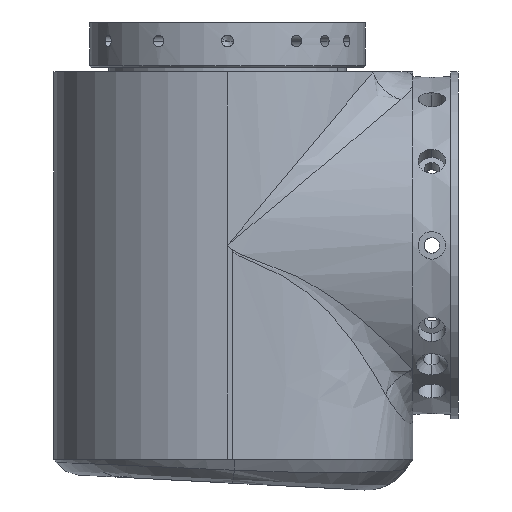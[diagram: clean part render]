
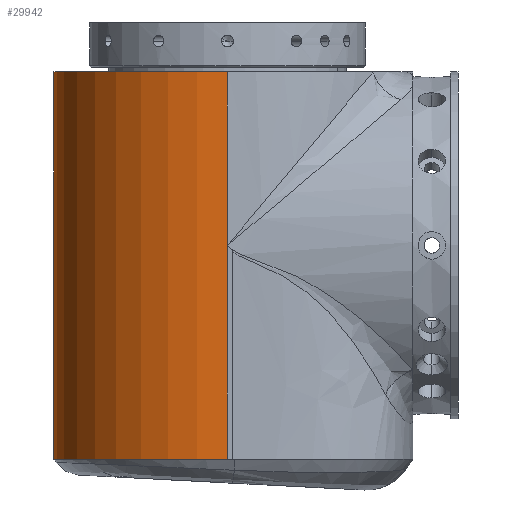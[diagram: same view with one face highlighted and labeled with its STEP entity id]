
A CAD part, left-side view. The second image highlights one B-rep face of the part: STEP entity #29942.
In plain terms, the highlighted cylindrical face has radius 36.5 mm (diameter 73 mm), a partial arc.
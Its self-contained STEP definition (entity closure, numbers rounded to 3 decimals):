
#1960 = EDGE_CURVE ( 'NONE', #57865, #7511, #49894, .T. ) ;
#5952 = ORIENTED_EDGE ( 'NONE', *, *, #140379, .F. ) ;
#7511 = VERTEX_POINT ( 'NONE', #58670 ) ;
#9409 = DIRECTION ( 'NONE',  ( 0., 0., 1. ) ) ;
#10761 = VERTEX_POINT ( 'NONE', #25517 ) ;
#14014 = VECTOR ( 'NONE', #23812, 1000. ) ;
#14905 = LINE ( 'NONE', #53193, #151032 ) ;
#18768 = CARTESIAN_POINT ( 'NONE',  ( 0., 0., 36.5 ) ) ;
#22443 = ORIENTED_EDGE ( 'NONE', *, *, #1960, .F. ) ;
#23812 = DIRECTION ( 'NONE',  ( 0., 0., 1. ) ) ;
#24979 = LINE ( 'NONE', #77935, #116630 ) ;
#25517 = CARTESIAN_POINT ( 'NONE',  ( -36.5, 0., 36.5 ) ) ;
#27458 = AXIS2_PLACEMENT_3D ( 'NONE', #41197, #146931, #154570 ) ;
#29033 = DIRECTION ( 'NONE',  ( 0., 0., 1. ) ) ;
#29942 = ADVANCED_FACE ( 'NONE', ( #68997 ), #31549, .T. ) ;
#31549 = CYLINDRICAL_SURFACE ( 'NONE', #27458, 36.5 ) ;
#31760 = DIRECTION ( 'NONE',  ( 1., 0., 0. ) ) ;
#33121 = EDGE_CURVE ( 'NONE', #120202, #51275, #50667, .T. ) ;
#41197 = CARTESIAN_POINT ( 'NONE',  ( 0., 0., -45. ) ) ;
#43366 = EDGE_CURVE ( 'NONE', #80857, #10761, #24979, .T. ) ;
#46968 = CARTESIAN_POINT ( 'NONE',  ( -36.5, 0., -45. ) ) ;
#49894 = LINE ( 'NONE', #127033, #14014 ) ;
#50667 = CIRCLE ( 'NONE', #155753, 36.5 ) ;
#51275 = VERTEX_POINT ( 'NONE', #128769 ) ;
#53193 = CARTESIAN_POINT ( 'NONE',  ( 36.5, 0., -45. ) ) ;
#55411 = EDGE_CURVE ( 'NONE', #51275, #80857, #71347, .T. ) ;
#57865 = VERTEX_POINT ( 'NONE', #104944 ) ;
#58670 = CARTESIAN_POINT ( 'NONE',  ( 36.5, 0., 36.5 ) ) ;
#68997 = FACE_OUTER_BOUND ( 'NONE', #127780, .T. ) ;
#71347 = LINE ( 'NONE', #46968, #162095 ) ;
#72616 = DIRECTION ( 'NONE',  ( 0., 0., 1. ) ) ;
#73583 = ORIENTED_EDGE ( 'NONE', *, *, #80713, .F. ) ;
#77935 = CARTESIAN_POINT ( 'NONE',  ( -36.5, 0., -45. ) ) ;
#80713 = EDGE_CURVE ( 'NONE', #120202, #57865, #14905, .T. ) ;
#80857 = VERTEX_POINT ( 'NONE', #151011 ) ;
#93654 = CARTESIAN_POINT ( 'NONE',  ( 36.5, 0., -45. ) ) ;
#98841 = ORIENTED_EDGE ( 'NONE', *, *, #43366, .T. ) ;
#104788 = AXIS2_PLACEMENT_3D ( 'NONE', #18768, #72616, #31760 ) ;
#104944 = CARTESIAN_POINT ( 'NONE',  ( 36.5, 0., 0. ) ) ;
#116630 = VECTOR ( 'NONE', #9409, 1000. ) ;
#119027 = ORIENTED_EDGE ( 'NONE', *, *, #55411, .T. ) ;
#120202 = VERTEX_POINT ( 'NONE', #93654 ) ;
#120685 = DIRECTION ( 'NONE',  ( 0., 0., 1. ) ) ;
#121330 = CIRCLE ( 'NONE', #104788, 36.5 ) ;
#127033 = CARTESIAN_POINT ( 'NONE',  ( 36.5, 0., -45. ) ) ;
#127780 = EDGE_LOOP ( 'NONE', ( #136886, #119027, #98841, #5952, #22443, #73583 ) ) ;
#128769 = CARTESIAN_POINT ( 'NONE',  ( -36.5, 0., -45. ) ) ;
#134834 = DIRECTION ( 'NONE',  ( 1., 0., 0. ) ) ;
#136886 = ORIENTED_EDGE ( 'NONE', *, *, #33121, .T. ) ;
#138022 = DIRECTION ( 'NONE',  ( 0., 0., 1. ) ) ;
#140379 = EDGE_CURVE ( 'NONE', #7511, #10761, #121330, .T. ) ;
#146931 = DIRECTION ( 'NONE',  ( 0., 0., 1. ) ) ;
#151011 = CARTESIAN_POINT ( 'NONE',  ( -36.5, 0., 0. ) ) ;
#151032 = VECTOR ( 'NONE', #120685, 1000. ) ;
#151244 = CARTESIAN_POINT ( 'NONE',  ( 0., 0., -45. ) ) ;
#154570 = DIRECTION ( 'NONE',  ( 1., 0., 0. ) ) ;
#155753 = AXIS2_PLACEMENT_3D ( 'NONE', #151244, #29033, #134834 ) ;
#162095 = VECTOR ( 'NONE', #138022, 1000. ) ;
